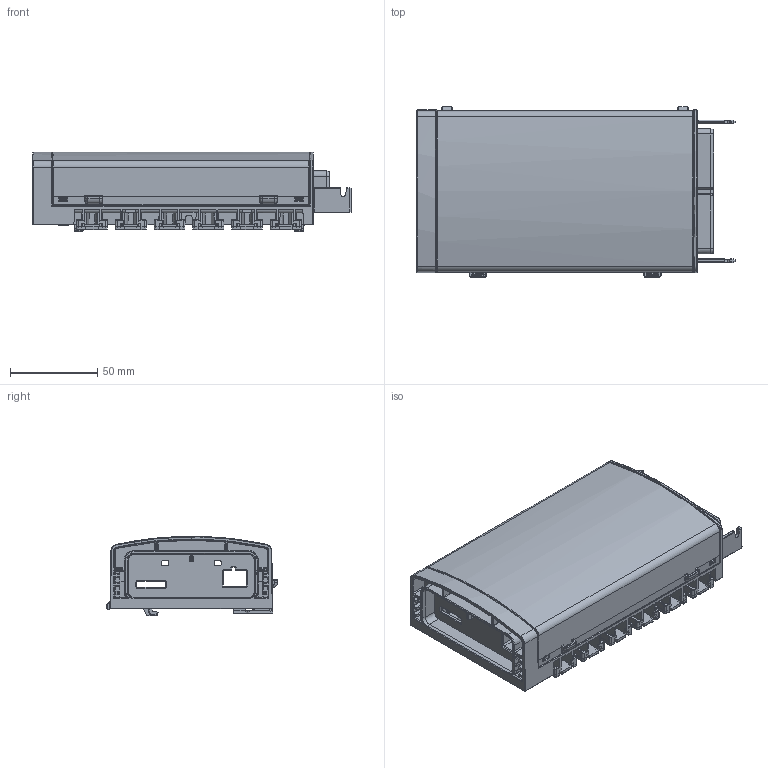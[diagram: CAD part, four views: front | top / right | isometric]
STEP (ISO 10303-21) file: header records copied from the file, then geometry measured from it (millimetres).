
FILE_DESCRIPTION (( 'STEP AP214' ), '1' );
FILE_NAME ('78115_Regelmodul D6.STEP', '2022-08-22T09:20:44', ( '' ), ( '' ), 'SwSTEP 2.0', 'SolidWorks 2022', '' );
FILE_SCHEMA (( 'AUTOMOTIVE_DESIGN' ));
Length unit declared in the file: millimetre
Products named in the file (5): Grundeinheit 6 Draht, Raumregelung 2012  _78115; Kabelclip Raumregelung _05 01 000734; Geh_X_E4use Reglermodul RM 6_05 01 000727; 78115_Regelmodul D6; Sichthaube Reglermodul RM 6_05 01 000729
Assembly tree (9 placements, depth 3):
  78115_Regelmodul D6
    Grundeinheit 6 Draht, Raumregelung 2012  _78115
      Kabelclip Raumregelung _05 01 000734  x6
      Sichthaube Reglermodul RM 6_05 01 000729
      Geh_X_E4use Reglermodul RM 6_05 01 000727
Bounding box: 182.12 x 97.93 x 45.5 mm (x, y, z)
Volume: 49403.7 mm3; surface area: 145267.5 mm2
Topology: 7 solids, 8 shells, 4592 faces, 11776 edges, 7083 vertices
Faces by surface type: plane 1889, cylinder 1458, bspline 758, cone 475, torus 12
Entity records: 181332 total; most frequent: CARTESIAN_POINT 69035, ORIENTED_EDGE 17590, DIRECTION 12526, EDGE_CURVE 8798, VERTEX_POINT 5328, VECTOR 4650, LINE 4650, AXIS2_PLACEMENT_3D 3938
